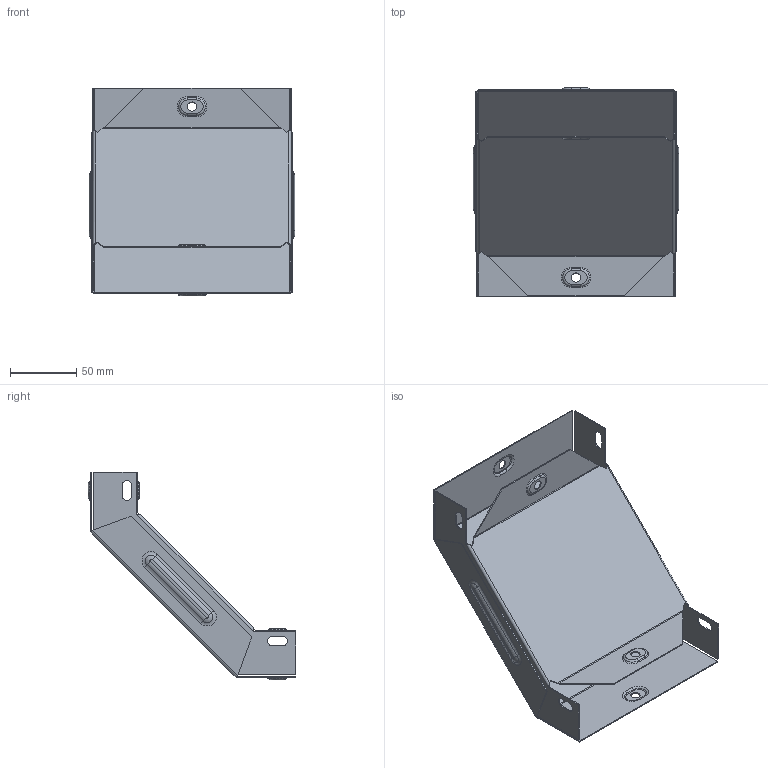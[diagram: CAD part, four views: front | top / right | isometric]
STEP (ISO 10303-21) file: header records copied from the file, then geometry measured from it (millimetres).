
FILE_DESCRIPTION (( 'STEP AP214' ), '1' );
FILE_NAME ('vo9035150_捘.STEP', '2019-06-10T08:52:43', ( '砐錪賧瘔蠈錪 Windows' ), ( '' ), 'SwSTEP 2.0', 'SolidWorks 2018', '' );
FILE_SCHEMA (( 'AUTOMOTIVE_DESIGN' ));
Length unit declared in the file: millimetre
Products named in the file (1): vo9035150_捘
Bounding box: 155.6 x 157.32 x 157.32 mm (x, y, z)
Volume: 67390.3 mm3; surface area: 170251.1 mm2
Topology: 2 solids, 2 shells, 262 faces, 606 edges, 364 vertices
Faces by surface type: cylinder 98, plane 92, torus 64, bspline 8
Entity records: 7621 total; most frequent: CARTESIAN_POINT 1481, DIRECTION 1360, ORIENTED_EDGE 1212, EDGE_CURVE 606, AXIS2_PLACEMENT_3D 531, VERTEX_POINT 364, VECTOR 298, LINE 298
